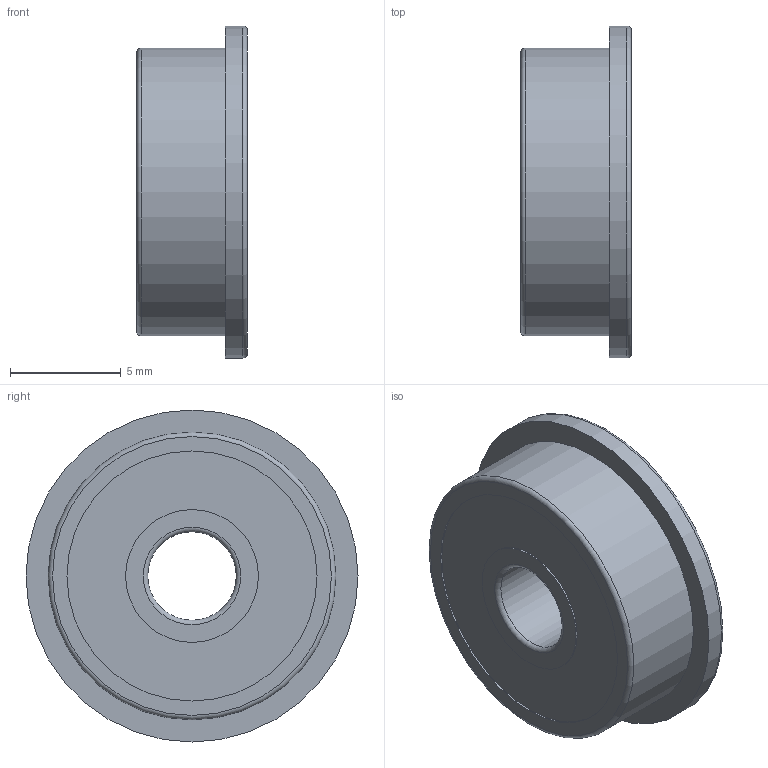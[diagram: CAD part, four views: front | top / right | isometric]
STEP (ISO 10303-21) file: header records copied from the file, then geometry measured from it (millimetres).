
FILE_DESCRIPTION(('FreeCAD Model'),'2;1');
FILE_NAME('Open CASCADE Shape Model','2021-04-30T14:54:00',(''),(''), 'Open CASCADE STEP processor 7.5','FreeCAD','Unknown');
FILE_SCHEMA(('AUTOMOTIVE_DESIGN { 1 0 10303 214 1 1 1 1 }'));
Length unit declared in the file: millimetre
Products named in the file (6): F624ZZ; _F624ZZ Outer Ring; _F624ZZ Inner Ring; _F624ZZ Shield1; _F624ZZ Ball; _F624ZZ Shield2
Assembly tree (11 placements, depth 2):
  F624ZZ
    _F624ZZ Outer Ring
    _F624ZZ Inner Ring
    _F624ZZ Shield1
    _F624ZZ Ball  x7
    _F624ZZ Shield2
Bounding box: 5 x 15 x 15 mm (x, y, z)
Volume: 461 mm3; surface area: 1254.9 mm2
Topology: 11 solids, 11 shells, 41 faces, 76 edges, 48 vertices
Faces by surface type: cylinder 15, plane 13, sphere 7, torus 6
Full cylindrical faces by diameter (mm): 4 x1, 6 x4, 6.95 x2, 10.45 x2, 11.3 x4, 13 x1, 15 x1
Entity records: 1840 total; most frequent: CARTESIAN_POINT 382, DIRECTION 258, ORIENTED_EDGE 110, PCURVE 110, DEFINITIONAL_REPRESENTATION 110, LINE 84, VECTOR 84, AXIS2_PLACEMENT_3D 81
